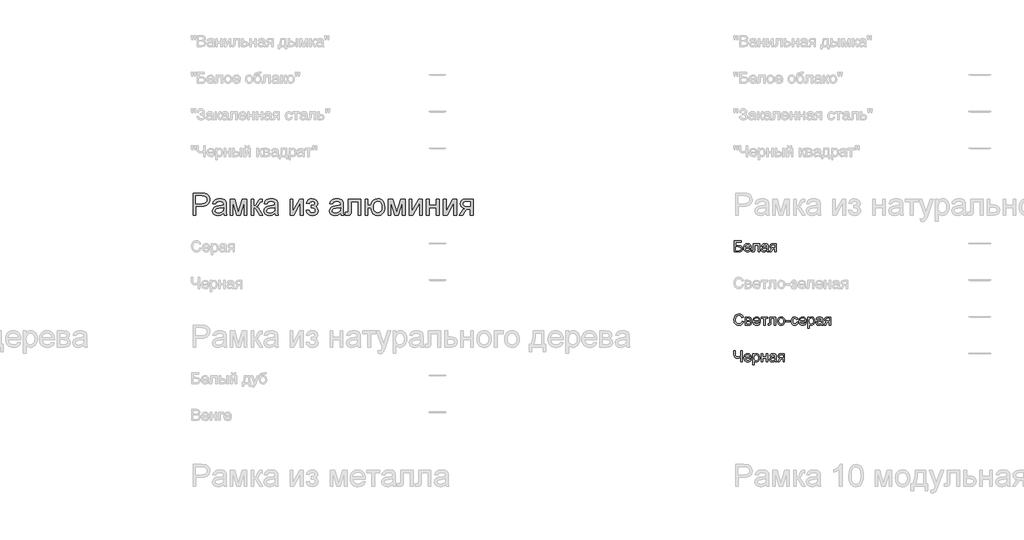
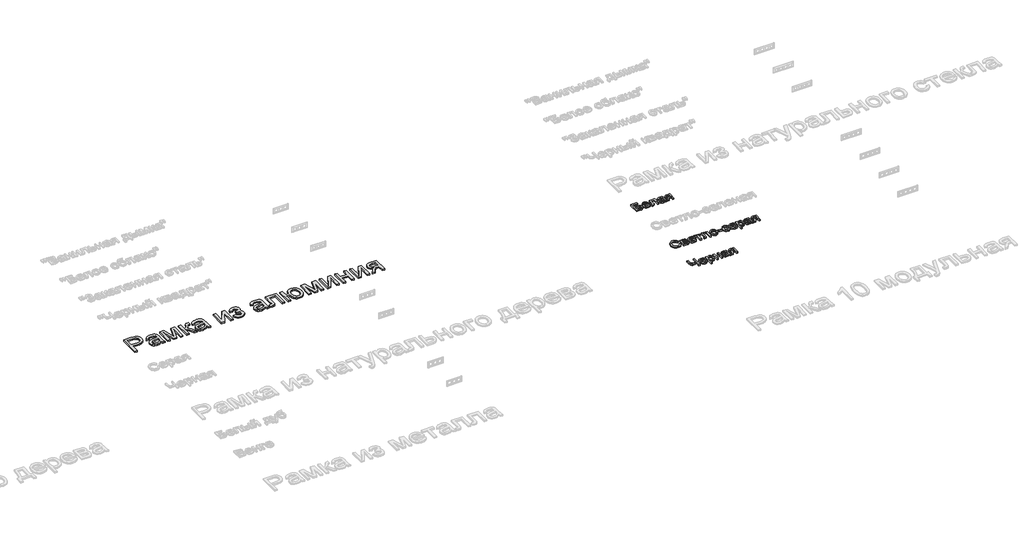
# One storey, part 124 of 168: 4 proxies.
"""IFC4 building model written with IfcOpenShell, lengths in millimetres."""

from ifc_helpers import new_model, si_unit, origin, origin_with_axes, place, context, project, spatial, polyline, outline, extrude, element, save

model = new_model("IFC4")

# Units and contexts
model_context = context("Model", 3, world=origin())
ifc_project = project(units=[si_unit("LENGTHUNIT", "METRE", prefix="MILLI")], contexts=[model_context])

# Site, building, storey
site = spatial("IfcSite", under=ifc_project)
building = spatial("IfcBuilding", under=site)
storey = spatial("IfcBuildingStorey", under=building, Name="Этаж 01", Elevation=0.0)

# Proxies
placement = place(None, origin())
element("IfcBuildingElementProxy", 1, Name="300 мм Arial 2", ObjectType="300 мм Arial 2", at=placement, inside=storey, context=model_context, shape_type="SweptSolid", body=[
    extrude(outline(polyline([(47699.0945017, -8848.4056816), (47699.0945017, -8547.0367511), (47810.7834754, -8547.0367511), (47855.8122316, -8549.9062307), (47875.8893915, -8555.2681108), (47892.4164901, -8563.9961111), (47905.7246213, -8576.4857048), (47916.1448788, -8593.1323651), (47922.8771193, -8612.7680666), (47925.1211995, -8634.224784), (47923.6059855, -8652.7246498), (47919.0603436, -8669.7437906), (47911.4842738, -8685.2822064), (47900.877776, -8699.3398971), (47886.3165468, -8710.9925593), (47866.8762826, -8719.3158895), (47842.5569835, -8724.3098875), (47813.3586494, -8725.9745536), (47736.765618, -8725.9745536), (47736.765618, -8848.4056816), (47699.0945017, -8848.4056816)]), holes=[polyline([(47736.765618, -8688.3034373), (47815.5659413, -8688.3034373), (47848.9696265, -8684.8453465), (47871.0425462, -8674.4710742), (47883.3481989, -8657.824414), (47887.4500832, -8635.5491592), (47885.0312591, -8618.6265874), (47877.7747867, -8604.352766), (47866.581977, -8593.6106117), (47852.3541408, -8587.2830414), (47814.6830245, -8584.7078674), (47736.765618, -8584.7078674), (47736.765618, -8688.3034373)])]), origin_with_axes(), (0.0, 0.0, 1.0), 20.0),
    extrude(outline(polyline([(48113.476781, -8820.1523443), (48095.4781544, -8835.584994), (48076.9460989, -8845.6833548), (48057.4575502, -8851.256767), (48036.589444, -8853.1145711), (48005.1079423, -8848.6448049), (47981.8853914, -8835.2355061), (47967.5655847, -8814.8732377), (47962.7923158, -8789.5445623), (47964.5949376, -8773.9279716), (47970.0028029, -8759.7461207), (47978.3445271, -8747.6060149), (47988.9487257, -8738.1146594), (48015.3258647, -8725.7538244), (48047.9202095, -8720.0884417), (48086.4374544, -8714.1287533), (48113.2560518, -8707.1389954), (48113.476781, -8698.7512859), (48110.883213, -8681.9390788), (48103.1025088, -8670.9394071), (48085.7016904, -8662.7724268), (48061.4582669, -8660.0501), (48039.0174652, -8661.8619189), (48023.3456922, -8667.2973753), (48012.6587202, -8677.3497509), (48005.1723216, -8693.0123268), (47967.5012053, -8688.3034373), (47974.0403078, -8667.7020455), (47983.7983777, -8651.5152378), (47997.685923, -8639.1360086), (48016.6134517, -8629.9573528), (48039.7624262, -8624.273576), (48066.3143092, -8622.3789837), (48091.7809404, -8624.0528468), (48111.9684648, -8629.074436), (48127.1895824, -8636.625214), (48137.7569927, -8645.8866432), (48144.7651447, -8657.3369703), (48149.3084874, -8671.4544419), (48151.1478973, -8704.4166687), (48151.1478973, -8751.2848348), (48153.0608837, -8816.7310418), (48160.5656764, -8848.4056816), (48122.8945601, -8848.4056816), (48113.476781, -8820.1523443)]), holes=[polyline([(48113.476781, -8744.8101117), (48052.7026754, -8756.3616064), (48020.2922716, -8762.4684475), (48005.61378, -8772.4012614), (48000.4634321, -8786.895812), (48003.2685323, -8798.0978187), (48011.683833, -8807.2764745), (48025.525393, -8813.4017097), (48044.6092715, -8815.4434548), (48064.8427813, -8813.1901776), (48082.7218462, -8806.4303459), (48097.2163968, -8796.4699409), (48107.2963635, -8784.6149436), (48111.7661297, -8772.4012614), (48113.2560518, -8755.4786896), (48113.476781, -8744.8101117)])]), origin_with_axes(), (0.0, 0.0, 1.0), 20.0),
    extrude(outline(polyline([(48202.9456823, -8627.0878733), (48267.7664898, -8627.0878733), (48317.7248647, -8804.2598421), (48371.5827888, -8627.0878733), (48433.6812696, -8627.0878733), (48433.6812696, -8848.4056816), (48396.0101533, -8848.4056816), (48396.0101533, -8670.2036431), (48341.8579236, -8848.4056816), (48292.4145835, -8848.4056816), (48240.6167986, -8661.6687808), (48240.6167986, -8848.4056816), (48202.9456823, -8848.4056816), (48202.9456823, -8627.0878733)])), origin_with_axes(), (0.0, 0.0, 1.0), 20.0),
    extrude(outline(polyline([(48490.1879441, -8627.0878733), (48527.8590604, -8627.0878733), (48527.8590604, -8721.265664), (48543.1813455, -8719.5734069), (48553.0957653, -8714.4966353), (48561.8697508, -8701.2528835), (48573.7707334, -8675.0596854), (48590.9508226, -8641.0306009), (48606.1075608, -8629.9573528), (48633.6619222, -8627.0878733), (48640.8724093, -8627.0878733), (48640.8724093, -8664.9797188), (48630.7188662, -8664.7589896), (48612.3247665, -8668.7321151), (48599.3753203, -8693.5273616), (48584.1817939, -8720.345959), (48562.8814263, -8733.4793463), (48574.8191971, -8738.7814455), (48586.6466032, -8748.1394438), (48609.9703217, -8779.0231373), (48650.2901884, -8848.4056816), (48607.4687241, -8848.4056816), (48567.9581979, -8780.4946653), (48548.0925701, -8751.7630814), (48538.8035497, -8746.5483542), (48527.8590604, -8744.8101117), (48527.8590604, -8848.4056816), (48490.1879441, -8848.4056816), (48490.1879441, -8627.0878733)])), origin_with_axes(), (0.0, 0.0, 1.0), 20.0),
    extrude(outline(polyline([(48815.1013222, -8820.1523443), (48797.1026956, -8835.584994), (48778.5706401, -8845.6833548), (48759.0820914, -8851.256767), (48738.2139852, -8853.1145711), (48706.7324835, -8848.6448049), (48683.5099326, -8835.2355061), (48669.1901259, -8814.8732377), (48664.416857, -8789.5445623), (48666.2194788, -8773.9279716), (48671.6273441, -8759.7461207), (48679.9690683, -8747.6060149), (48690.5732669, -8738.1146594), (48716.9504059, -8725.7538244), (48749.5447507, -8720.0884417), (48788.0619956, -8714.1287533), (48814.880593, -8707.1389954), (48815.1013222, -8698.7512859), (48812.5077542, -8681.9390788), (48804.72705, -8670.9394071), (48787.3262316, -8662.7724268), (48763.0828081, -8660.0501), (48740.6420064, -8661.8619189), (48724.9702334, -8667.2973753), (48714.2832614, -8677.3497509), (48706.7968628, -8693.0123268), (48669.1257465, -8688.3034373), (48675.664849, -8667.7020455), (48685.4229189, -8651.5152378), (48699.3104642, -8639.1360086), (48718.2379929, -8629.9573528), (48741.3869674, -8624.273576), (48767.9388504, -8622.3789837), (48793.4054816, -8624.0528468), (48813.593006, -8629.074436), (48828.8141236, -8636.625214), (48839.3815339, -8645.8866432), (48846.3896859, -8657.3369703), (48850.9330286, -8671.4544419), (48852.7724385, -8704.4166687), (48852.7724385, -8751.2848348), (48854.6854249, -8816.7310418), (48862.1902176, -8848.4056816), (48824.5191013, -8848.4056816), (48815.1013222, -8820.1523443)]), holes=[polyline([(48815.1013222, -8744.8101117), (48754.3272166, -8756.3616064), (48721.9168128, -8762.4684475), (48707.2383212, -8772.4012614), (48702.0879733, -8786.895812), (48704.8930735, -8798.0978187), (48713.3083742, -8807.2764745), (48727.1499342, -8813.4017097), (48746.2338127, -8815.4434548), (48766.4673225, -8813.1901776), (48784.3463874, -8806.4303459), (48798.840938, -8796.4699409), (48808.9209047, -8784.6149436), (48813.3906709, -8772.4012614), (48814.880593, -8755.4786896), (48815.1013222, -8744.8101117)])]), origin_with_axes(), (0.0, 0.0, 1.0), 20.0),
    extrude(outline(polyline([(49022.2924619, -8627.0878733), (49059.9635782, -8627.0878733), (49059.9635782, -8795.8721327), (49152.5226882, -8627.0878733), (49201.2302644, -8627.0878733), (49201.2302644, -8848.4056816), (49163.5591481, -8848.4056816), (49163.5591481, -8680.6514918), (49071.5886493, -8848.4056816), (49022.2924619, -8848.4056816), (49022.2924619, -8627.0878733)])), origin_with_axes(), (0.0, 0.0, 1.0), 20.0),
    extrude(outline(polyline([(49309.5347237, -8749.5190013), (49309.5347237, -8711.847885), (49339.259589, -8710.376357), (49354.2691744, -8702.5404705), (49359.5666751, -8695.1920276), (49361.3325087, -8686.1697217), (49358.9688668, -8675.4551586), (49351.8779414, -8667.1502225), (49341.0530137, -8661.8251307), (49327.4873651, -8660.0501), (49313.7745637, -8661.8159336), (49302.2874484, -8667.1134343), (49293.0260192, -8675.9426022), (49285.9902761, -8688.3034373), (49243.6102702, -8683.5945477), (49254.8490652, -8656.8127385), (49271.9371838, -8637.6828747), (49294.8746262, -8626.2049565), (49323.6613924, -8622.3789837), (49355.1520911, -8627.041888), (49378.9908444, -8641.0306009), (49394.0004298, -8661.4940369), (49399.003625, -8685.5811105), (49397.2239958, -8697.9419455), (49391.8851084, -8708.9784054), (49382.9869626, -8718.6904901), (49370.5295585, -8727.0781996), (49385.0700944, -8737.5444423), (49395.4351696, -8750.5490709), (49401.6431783, -8766.1288733), (49403.7125145, -8784.320638), (49398.460999, -8812.0497434), (49382.7064526, -8834.0214956), (49357.515733, -8848.3413022), (49323.955698, -8853.1145711), (49291.1314269, -8848.6999872), (49266.0142837, -8835.4562353), (49248.6042683, -8813.3833156), (49238.9013807, -8782.481228), (49281.2813865, -8777.7723385), (49287.6273509, -8793.7016289), (49298.2775347, -8805.5842173), (49311.9995331, -8812.9786454), (49327.5609415, -8815.4434548), (49342.7176797, -8813.079813), (49355.0785147, -8805.9888875), (49363.3006773, -8795.2191421), (49366.0413982, -8781.8190404), (49364.339944, -8771.2056449), (49359.2355813, -8762.0269891), (49344.7410307, -8751.4319876), (49316.8923636, -8749.2982721), (49309.5347237, -8749.5190013)])), origin_with_axes(), (0.0, 0.0, 1.0), 20.0),
    extrude(outline(polyline([(49709.7903345, -8820.1523443), (49691.7917079, -8835.584994), (49673.2596524, -8845.6833548), (49653.7711037, -8851.256767), (49632.9029975, -8853.1145711), (49601.4214958, -8848.6448049), (49578.1989448, -8835.2355061), (49563.8791382, -8814.8732377), (49559.1058693, -8789.5445623), (49560.908491, -8773.9279716), (49566.3163564, -8759.7461207), (49574.6580806, -8747.6060149), (49585.2622791, -8738.1146594), (49611.6394182, -8725.7538244), (49644.233763, -8720.0884417), (49682.7510079, -8714.1287533), (49709.5696053, -8707.1389954), (49709.7903345, -8698.7512859), (49707.1967664, -8681.9390788), (49699.4160622, -8670.9394071), (49682.0152439, -8662.7724268), (49657.7718204, -8660.0501), (49635.3310187, -8661.8619189), (49619.6592457, -8667.2973753), (49608.9722737, -8677.3497509), (49601.4858751, -8693.0123268), (49563.8147588, -8688.3034373), (49570.3538613, -8667.7020455), (49580.1119312, -8651.5152378), (49593.9994765, -8639.1360086), (49612.9270052, -8629.9573528), (49636.0759797, -8624.273576), (49662.6278627, -8622.3789837), (49688.0944938, -8624.0528468), (49708.2820183, -8629.074436), (49723.5031359, -8636.625214), (49734.0705462, -8645.8866432), (49741.0786982, -8657.3369703), (49745.6220408, -8671.4544419), (49747.4614508, -8704.4166687), (49747.4614508, -8751.2848348), (49749.3744372, -8816.7310418), (49756.8792299, -8848.4056816), (49719.2081136, -8848.4056816), (49709.7903345, -8820.1523443)]), holes=[polyline([(49709.7903345, -8744.8101117), (49649.0162289, -8756.3616064), (49616.6058251, -8762.4684475), (49601.9273335, -8772.4012614), (49596.7769856, -8786.895812), (49599.5820858, -8798.0978187), (49607.9973864, -8807.2764745), (49621.8389465, -8813.4017097), (49640.922825, -8815.4434548), (49661.1563347, -8813.1901776), (49679.0353997, -8806.4303459), (49693.5299503, -8796.4699409), (49703.609917, -8784.6149436), (49708.0796832, -8772.4012614), (49709.5696053, -8755.4786896), (49709.7903345, -8744.8101117)])]), origin_with_axes(), (0.0, 0.0, 1.0), 20.0),
    extrude(outline(polyline([(49818.0947939, -8627.0878733), (49987.6148173, -8627.0878733), (49987.6148173, -8848.1849524), (49949.9437009, -8848.1849524), (49949.9437009, -8664.7589896), (49855.7659102, -8664.7589896), (49855.7659102, -8770.3411222), (49853.2275244, -8819.0486984), (49848.4726496, -8830.0759612), (49839.2847968, -8839.6133019), (49825.3420692, -8846.2075866), (49806.32257, -8848.4056816), (49775.714788, -8846.4926952), (49775.714788, -8810.7345653), (49792.5637834, -8810.7345653), (49809.5967198, -8808.4169087), (49816.4025367, -8801.0592688), (49818.0947939, -8768.2074066), (49818.0947939, -8627.0878733)])), origin_with_axes(), (0.0, 0.0, 1.0), 20.0),
    extrude(outline(polyline([(50044.1214917, -8627.0878733), (50081.792608, -8627.0878733), (50081.792608, -8711.847885), (50124.1726139, -8711.847885), (50133.9490779, -8673.4410047), (50142.4724439, -8658.1003255), (50153.4192325, -8645.3348202), (50166.4813426, -8635.2916418), (50181.350673, -8628.1179429), (50216.5109947, -8622.3789837), (50246.0611159, -8625.754301), (50268.6398734, -8635.880253), (50286.0590858, -8651.929105), (50300.1305722, -8673.0731227), (50309.4287896, -8700.8850015), (50312.5281954, -8736.937437), (50310.9256095, -8763.7928227), (50306.1178516, -8787.1901176), (50298.1049219, -8807.1293217), (50286.8868203, -8823.6104351), (50272.9233994, -8836.5184946), (50256.6745115, -8845.7385371), (50238.1401567, -8851.2705626), (50217.320335, -8853.1145711), (50197.9168591, -8851.3855257), (50180.5413326, -8846.1983896), (50165.1937556, -8837.5531627), (50151.8741281, -8825.4498451), (50140.9135439, -8810.3298951), (50132.6430968, -8792.6347711), (50124.1726139, -8749.5190013), (50081.792608, -8749.5190013), (50081.792608, -8848.4056816), (50044.1214917, -8848.4056816), (50044.1214917, -8627.0878733)]), holes=[polyline([(50218.9390158, -8660.0501), (50194.9255186, -8664.9245365), (50176.8901038, -8679.5478458), (50165.6053236, -8702.9635348), (50161.8437302, -8734.2151103), (50165.6329147, -8770.6262307), (50177.0004684, -8795.8353445), (50194.7139864, -8810.5414272), (50217.5410642, -8815.4434548), (50240.4325214, -8810.9093092), (50258.7806359, -8797.3068724), (50270.8379683, -8773.6060749), (50274.8570791, -8738.776847), (50271.3805942, -8704.3338952), (50260.9511397, -8679.7317868), (50243.495139, -8664.9705217), (50218.9390158, -8660.0501)])]), origin_with_axes(), (0.0, 0.0, 1.0), 20.0),
    extrude(outline(polyline([(50359.6170908, -8627.0878733), (50424.4378983, -8627.0878733), (50474.3962733, -8804.2598421), (50528.2541974, -8627.0878733), (50590.3526782, -8627.0878733), (50590.3526782, -8848.4056816), (50552.6815618, -8848.4056816), (50552.6815618, -8670.2036431), (50498.5293322, -8848.4056816), (50449.085992, -8848.4056816), (50397.2882071, -8661.6687808), (50397.2882071, -8848.4056816), (50359.6170908, -8848.4056816), (50359.6170908, -8627.0878733)])), origin_with_axes(), (0.0, 0.0, 1.0), 20.0),
    extrude(outline(polyline([(50646.8593526, -8627.0878733), (50684.5304689, -8627.0878733), (50684.5304689, -8795.8721327), (50777.0895789, -8627.0878733), (50825.7971551, -8627.0878733), (50825.7971551, -8848.4056816), (50788.1260388, -8848.4056816), (50788.1260388, -8680.6514918), (50696.15554, -8848.4056816), (50646.8593526, -8848.4056816), (50646.8593526, -8627.0878733)])), origin_with_axes(), (0.0, 0.0, 1.0), 20.0),
    extrude(outline(polyline([(50882.3038295, -8627.0878733), (50919.9749458, -8627.0878733), (50919.9749458, -8711.847885), (51018.8616261, -8711.847885), (51018.8616261, -8627.0878733), (51056.5327424, -8627.0878733), (51056.5327424, -8848.4056816), (51018.8616261, -8848.4056816), (51018.8616261, -8749.5190013), (50919.9749458, -8749.5190013), (50919.9749458, -8848.4056816), (50882.3038295, -8848.4056816), (50882.3038295, -8627.0878733)])), origin_with_axes(), (0.0, 0.0, 1.0), 20.0),
    extrude(outline(polyline([(51113.0394169, -8627.0878733), (51150.7105332, -8627.0878733), (51150.7105332, -8795.8721327), (51243.2696432, -8627.0878733), (51291.9772194, -8627.0878733), (51291.9772194, -8848.4056816), (51254.306103, -8848.4056816), (51254.306103, -8680.6514918), (51162.3356043, -8848.4056816), (51113.0394169, -8848.4056816), (51113.0394169, -8627.0878733)])), origin_with_axes(), (0.0, 0.0, 1.0), 20.0),
    extrude(outline(polyline([(51518.0039172, -8627.0878733), (51518.0039172, -8848.4056816), (51480.3328009, -8848.4056816), (51480.3328009, -8763.6456699), (51459.8049856, -8763.6456699), (51431.8459539, -8768.4281358), (51420.6807354, -8778.8575904), (51405.5791795, -8800.5810222), (51375.5600087, -8848.4056816), (51332.0027804, -8848.4056816), (51369.8210495, -8787.9258816), (51386.5228921, -8766.2208438), (51401.9003595, -8756.5823356), (51376.1486198, -8748.6912668), (51358.0488257, -8733.7000755), (51347.3434596, -8713.7608713), (51343.7750043, -8691.025764), (51348.6494407, -8665.2372362), (51363.27275, -8644.8197854), (51387.1298974, -8631.5208513), (51419.7058481, -8627.0878733), (51518.0039172, -8627.0878733)]), holes=[polyline([(51480.3328009, -8664.7589896), (51430.6687315, -8664.7589896), (51405.0181594, -8666.9386904), (51390.4592295, -8673.4777929), (51383.6993978, -8682.9415572), (51381.4461206, -8693.8952436), (51384.7662556, -8708.2518385), (51394.7266606, -8718.2122435), (51413.1299574, -8724.033976), (51441.7787678, -8725.9745536), (51480.3328009, -8725.9745536), (51480.3328009, -8664.7589896)])]), origin_with_axes(), (0.0, 0.0, 1.0), 20.0),
])
element("IfcBuildingElementProxy", 2, Name="150", ObjectType="150", at=placement, inside=storey, context=model_context, shape_type="SweptSolid", body=[
    extrude(outline(polyline([(55082.6133883, -9197.7212163), (55176.791179, -9197.7212163), (55176.791179, -9216.5567745), (55101.4489464, -9216.5567745), (55101.4489464, -9261.2912251), (55136.7288298, -9261.2912251), (55167.8148584, -9265.1171979), (55178.2167218, -9270.6446248), (55186.3193227, -9279.5749603), (55191.53405, -9291.0712726), (55193.2722924, -9304.2966303), (55188.3242796, -9325.7625448), (55173.5538175, -9342.0781113), (55160.2824745, -9346.823789), (55140.1133441, -9348.4056816), (55082.6133883, -9348.4056816), (55082.6133883, -9197.7212163)]), holes=[polyline([(55101.4489464, -9329.5701234), (55141.8056013, -9329.5701234), (55156.0702257, -9328.015822), (55166.269754, -9323.3529177), (55172.3949892, -9315.5814105), (55174.4367343, -9304.7013005), (55169.7646329, -9289.9492325), (55156.7600044, -9282.0765578), (55128.3779085, -9280.1267833), (55101.4489464, -9280.1267833), (55101.4489464, -9329.5701234)])]), origin_with_axes(), (0.0, 0.0, 1.0), 20.0),
    extrude(outline(polyline([(55294.2926883, -9315.4434548), (55312.7603645, -9317.7978996), (55306.1062989, -9331.713036), (55295.4883048, -9342.1148995), (55281.1455055, -9348.5988196), (55263.3170243, -9350.7601263), (55241.2165134, -9347.0307226), (55224.2111682, -9335.8425114), (55213.3678464, -9317.9220597), (55209.7534058, -9293.9959345), (55213.4046346, -9269.2650674), (55224.358321, -9250.7698), (55241.13374, -9239.2366995), (55262.2501665, -9235.3923327), (55282.709004, -9239.2275025), (55299.0567601, -9250.7330118), (55309.7759218, -9269.191491), (55313.3489756, -9293.8855699), (55313.2386111, -9298.9623414), (55228.588964, -9298.9623414), (55231.8493181, -9313.0614189), (55239.4230887, -9323.4264941), (55250.3537825, -9329.8000497), (55263.6849063, -9331.9245682), (55282.1525825, -9327.9882308), (55294.2926883, -9315.4434548)]), holes=[polyline([(55228.588964, -9280.1267833), (55294.5134175, -9280.1267833), (55291.9658347, -9270.1755753), (55286.9718366, -9263.0570587), (55275.990559, -9256.4351828), (55262.1765901, -9254.2278908), (55249.4800628, -9255.9891259), (55238.9816303, -9261.272831), (55231.6837712, -9269.5087892), (55228.588964, -9280.1267833)])]), origin_with_axes(), (0.0, 0.0, 1.0), 20.0),
    extrude(outline(polyline([(55341.6023129, -9237.7467774), (55426.3623246, -9237.7467774), (55426.3623246, -9348.295317), (55407.5267664, -9348.295317), (55407.5267664, -9256.5823356), (55360.437871, -9256.5823356), (55360.437871, -9309.3734019), (55359.1686781, -9333.72719), (55352.1973143, -9344.0094917), (55335.716201, -9348.4056816), (55320.41231, -9347.4491884), (55320.41231, -9329.5701234), (55328.8368076, -9329.5701234), (55337.3532758, -9328.4112951), (55340.7561843, -9324.7324752), (55341.6023129, -9308.3065441), (55341.6023129, -9237.7467774)])), origin_with_axes(), (0.0, 0.0, 1.0), 20.0),
    extrude(outline(polyline([(55525.2490049, -9334.279013), (55506.9836638, -9347.0445182), (55486.8053364, -9350.7601263), (55471.0645855, -9348.5252432), (55459.45331, -9341.8205939), (55452.2934067, -9331.6394596), (55449.9067723, -9318.975122), (55453.5120158, -9304.0759012), (55462.9849772, -9293.2601705), (55476.1735467, -9287.079753), (55492.4707191, -9284.2470616), (55525.1386403, -9277.7723385), (55525.2490049, -9273.5784838), (55523.9522208, -9265.1723802), (55520.0618687, -9259.6725443), (55511.3614596, -9255.5890542), (55499.2397478, -9254.2278908), (55480.1834605, -9257.8515285), (55471.0967752, -9270.7090042), (55452.261217, -9268.3545594), (55460.4098032, -9249.9604597), (55476.8173402, -9239.1815172), (55501.667769, -9235.3923327), (55524.4948468, -9238.7400588), (55537.3891107, -9247.1461624), (55543.164858, -9259.9300617), (55544.084563, -9276.4111751), (55544.084563, -9299.8452582), (55545.0410562, -9332.5683617), (55548.7934526, -9348.4056816), (55529.9578944, -9348.4056816), (55525.2490049, -9334.279013)]), holes=[polyline([(55525.2490049, -9296.6078966), (55494.8619521, -9302.383644), (55478.6567502, -9305.4370645), (55471.3175044, -9310.4034715), (55468.7423304, -9317.6507468), (55474.3525308, -9327.841078), (55490.8152501, -9331.9245682), (55509.8715375, -9327.4180137), (55522.1587961, -9316.5103126), (55525.1386403, -9301.9421856), (55525.2490049, -9296.6078966)])]), origin_with_axes(), (0.0, 0.0, 1.0), 20.0),
    extrude(outline(polyline([(55654.7434672, -9237.7467774), (55654.7434672, -9348.4056816), (55635.907909, -9348.4056816), (55635.907909, -9306.0256757), (55625.6440014, -9306.0256757), (55611.6644855, -9308.4169087), (55598.5310983, -9324.4933519), (55583.5215129, -9348.4056816), (55561.7428988, -9348.4056816), (55580.6520333, -9318.1657816), (55589.0029546, -9307.3132627), (55596.6916883, -9302.4940086), (55583.8158185, -9298.5484742), (55574.7659214, -9291.0528785), (55569.4132384, -9281.0832765), (55567.6290107, -9269.7157228), (55570.0662289, -9256.8214589), (55577.3778836, -9246.6127335), (55589.3064573, -9239.9632664), (55605.5944326, -9237.7467774), (55654.7434672, -9237.7467774)]), holes=[polyline([(55635.907909, -9256.5823356), (55611.0758743, -9256.5823356), (55598.2505883, -9257.672186), (55590.9711233, -9260.9417372), (55586.4645689, -9271.1504626), (55588.1246364, -9278.32876), (55593.1048389, -9283.3089625), (55616.6308925, -9287.1901176), (55635.907909, -9287.1901176), (55635.907909, -9256.5823356)])]), origin_with_axes(), (0.0, 0.0, 1.0), 20.0),
])
element("IfcBuildingElementProxy", 3, Name="150", ObjectType="150", at=placement, inside=storey, context=model_context, shape_type="SweptSolid", body=[
    extrude(outline(polyline([(55188.5634029, -10294.8420631), (55207.398961, -10299.6981054), (55198.7077489, -10321.6468649), (55185.0685239, -10337.6819214), (55167.1526708, -10347.4905751), (55145.631574, -10350.7601263), (55123.7839821, -10348.2861199), (55106.4337475, -10340.8641007), (55093.1348133, -10328.751586), (55083.4411228, -10312.2060932), (55077.5228212, -10292.7543327), (55075.550054, -10271.9230148), (55077.7803386, -10249.9512626), (55084.4711923, -10230.9777487), (55095.2731274, -10215.6048798), (55109.8366559, -10204.4350628), (55127.1087156, -10197.6338444), (55146.0362442, -10195.3667716), (55166.6882197, -10198.3006305), (55183.7625428, -10207.1022072), (55196.7257847, -10221.2288758), (55205.0445163, -10240.1380104), (55186.2089581, -10244.6261707), (55179.6790527, -10230.8903767), (55170.7579143, -10221.4679991), (55159.3351784, -10216.0187471), (55145.3004803, -10214.2023297), (55129.1228695, -10216.2164837), (55115.8331324, -10222.2589454), (55105.7485672, -10231.6951186), (55099.1864722, -10243.8904067), (55094.3856121, -10271.8862266), (55095.8065563, -10289.2870449), (55100.0693889, -10304.3334185), (55107.3350583, -10316.4505318), (55117.7645129, -10325.063569), (55130.2679022, -10330.2093184), (55143.7553759, -10331.9245682), (55159.4777326, -10329.5885175), (55172.5789302, -10322.5803655), (55182.4703573, -10310.9736886), (55188.5634029, -10294.8420631)])), origin_with_axes(), (0.0, 0.0, 1.0), 20.0),
    extrude(outline(polyline([(55230.9434087, -10237.7467774), (55272.4404978, -10237.7467774), (55295.1939992, -10240.2667691), (55307.9962926, -10249.5006072), (55313.3489756, -10265.5954445), (55310.1116141, -10278.6736494), (55300.3627412, -10287.999458), (55313.0178819, -10298.2081833), (55318.0578652, -10315.9584896), (55314.8664889, -10330.3150845), (55307.2789227, -10340.4226423), (55295.2675756, -10346.4099217), (55278.8048563, -10348.4056816), (55230.9434087, -10348.4056816), (55230.9434087, -10237.7467774)]), holes=[polyline([(55249.7789669, -10280.1267833), (55268.3937958, -10280.1267833), (55283.7528691, -10279.1702901), (55291.2208736, -10275.3443173), (55294.5134175, -10268.4281358), (55293.0694807, -10262.8087383), (55288.7376702, -10259.1942977), (55268.982407, -10256.5823356), (55249.7789669, -10256.5823356), (55249.7789669, -10280.1267833)]), polyline([(55249.7789669, -10329.5701234), (55272.8819562, -10329.5701234), (55293.3729833, -10326.167215), (55297.6128233, -10321.5273033), (55299.222307, -10314.4133852), (55296.0033396, -10305.345094), (55287.6156301, -10300.0659874), (55271.0425462, -10298.9623414), (55249.7789669, -10298.9623414), (55249.7789669, -10329.5701234)])]), origin_with_axes(), (0.0, 0.0, 1.0), 20.0),
    extrude(outline(polyline([(55419.0782611, -10315.4434548), (55437.5459372, -10317.7978996), (55430.8918716, -10331.713036), (55420.2738775, -10342.1148995), (55405.9310783, -10348.5988196), (55388.1025971, -10350.7601263), (55366.0020862, -10347.0307226), (55348.996741, -10335.8425114), (55338.1534192, -10317.9220597), (55334.5389786, -10293.9959345), (55338.1902074, -10269.2650674), (55349.1438938, -10250.7698), (55365.9193128, -10239.2366995), (55387.0357393, -10235.3923327), (55407.4945767, -10239.2275025), (55423.8423329, -10250.7330118), (55434.5614945, -10269.191491), (55438.1345484, -10293.8855699), (55438.0241838, -10298.9623414), (55353.3745367, -10298.9623414), (55356.6348909, -10313.0614189), (55364.2086615, -10323.4264941), (55375.1393553, -10329.8000497), (55388.4704791, -10331.9245682), (55406.9381552, -10327.9882308), (55419.0782611, -10315.4434548)]), holes=[polyline([(55353.3745367, -10280.1267833), (55419.2989903, -10280.1267833), (55416.7514074, -10270.1755753), (55411.7574094, -10263.0570587), (55400.7761318, -10256.4351828), (55386.9621629, -10254.2278908), (55374.2656355, -10255.9891259), (55363.7672031, -10261.272831), (55356.469344, -10269.5087892), (55353.3745367, -10280.1267833)])]), origin_with_axes(), (0.0, 0.0, 1.0), 20.0),
    extrude(outline(polyline([(55447.5523275, -10237.7467774), (55537.0212287, -10237.7467774), (55537.0212287, -10256.5823356), (55501.7045572, -10256.5823356), (55501.7045572, -10348.4056816), (55482.868999, -10348.4056816), (55482.868999, -10256.5823356), (55447.5523275, -10256.5823356), (55447.5523275, -10237.7467774)])), origin_with_axes(), (0.0, 0.0, 1.0), 20.0),
    extrude(outline(polyline([(55562.9201212, -10237.7467774), (55647.6801329, -10237.7467774), (55647.6801329, -10348.295317), (55628.8445747, -10348.295317), (55628.8445747, -10256.5823356), (55581.7556793, -10256.5823356), (55581.7556793, -10309.3734019), (55580.4864864, -10333.72719), (55573.5151226, -10344.0094917), (55557.0340093, -10348.4056816), (55541.7301183, -10347.4491884), (55541.7301183, -10329.5701234), (55550.1546159, -10329.5701234), (55558.6710841, -10328.4112951), (55562.0739926, -10324.7324752), (55562.9201212, -10308.3065441), (55562.9201212, -10237.7467774)])), origin_with_axes(), (0.0, 0.0, 1.0), 20.0),
    extrude(outline(polyline([(55671.2245806, -10293.0762295), (55675.2988737, -10266.3955878), (55687.5217529, -10247.6428031), (55702.6233088, -10238.4549503), (55720.7047089, -10235.3923327), (55740.4921617, -10239.1217364), (55756.2972919, -10250.3099476), (55766.6577686, -10268.0740494), (55770.1112609, -10291.5311251), (55768.5845506, -10310.5598213), (55764.0044197, -10325.0451749), (55756.5042256, -10335.8930952), (55746.2173253, -10344.0094917), (55733.9990445, -10349.0724677), (55720.7047089, -10350.7601263), (55700.6781328, -10347.0445182), (55684.8913967, -10335.8976937), (55674.6412846, -10317.7611114), (55671.2245806, -10293.0762295)]), holes=[polyline([(55690.0601387, -10293.0394413), (55692.2398395, -10310.0861732), (55698.778942, -10322.2308776), (55708.6197854, -10329.5011455), (55720.7047089, -10331.9245682), (55732.7344502, -10329.48735), (55742.5568994, -10322.1756953), (55749.0960019, -10309.8700426), (55751.2757027, -10292.4508301), (55749.0822063, -10275.9007388), (55742.5017171, -10263.9215814), (55732.6654723, -10256.6513134), (55720.7047089, -10254.2278908), (55708.6197854, -10256.6421164), (55698.778942, -10263.8847932), (55692.2398395, -10276.0019064), (55690.0601387, -10293.0394413)])]), origin_with_axes(), (0.0, 0.0, 1.0), 20.0),
    extrude(outline(polyline([(55781.8834847, -10303.671231), (55781.8834847, -10284.8356728), (55840.7446039, -10284.8356728), (55840.7446039, -10303.671231), (55781.8834847, -10303.671231)])), origin_with_axes(), (0.0, 0.0, 1.0), 20.0),
    extrude(outline(polyline([(55932.5679499, -10308.3801205), (55951.4035081, -10310.7345653), (55946.1519926, -10327.4869916), (55936.2835581, -10340.1467308), (55922.7271066, -10348.1067774), (55906.4115401, -10350.7601263), (55886.3757669, -10347.0583138), (55870.7085924, -10335.952876), (55860.5964361, -10317.9312568), (55857.2257173, -10293.4808997), (55858.6650556, -10276.7192763), (55862.9830705, -10262.192536), (55870.2487399, -10250.4616989), (55880.5310417, -10242.087785), (55892.8320959, -10237.0661957), (55906.1540227, -10235.3923327), (55922.0695175, -10237.6915951), (55934.793636, -10244.5893825), (55943.921708, -10255.7178129), (55949.0490633, -10270.7090042), (55930.2135052, -10273.063449), (55921.4763078, -10258.9551744), (55906.3011755, -10254.2278908), (55894.12888, -10256.5547444), (55884.4673791, -10263.5353053), (55878.1628014, -10275.5466524), (55876.0612755, -10292.9658649), (55878.1168161, -10310.6196021), (55884.2834381, -10322.672336), (55893.770195, -10329.6115101), (55905.7861407, -10331.9245682), (55915.5396121, -10330.4806314), (55923.5364469, -10326.1488209), (55929.353581, -10318.8187721), (55932.5679499, -10308.3801205)])), origin_with_axes(), (0.0, 0.0, 1.0), 20.0),
    extrude(outline(polyline([(56045.3605697, -10315.4434548), (56063.8282458, -10317.7978996), (56057.1741802, -10331.713036), (56046.5561861, -10342.1148995), (56032.2133868, -10348.5988196), (56014.3849057, -10350.7601263), (55992.2843948, -10347.0307226), (55975.2790496, -10335.8425114), (55964.4357278, -10317.9220597), (55960.8212872, -10293.9959345), (55964.472516, -10269.2650674), (55975.4262024, -10250.7698), (55992.2016213, -10239.2366995), (56013.3180479, -10235.3923327), (56033.7768853, -10239.2275025), (56050.1246415, -10250.7330118), (56060.8438031, -10269.191491), (56064.416857, -10293.8855699), (56064.3064924, -10298.9623414), (55979.6568453, -10298.9623414), (55982.9171995, -10313.0614189), (55990.4909701, -10323.4264941), (56001.4216639, -10329.8000497), (56014.7527877, -10331.9245682), (56033.2204638, -10327.9882308), (56045.3605697, -10315.4434548)]), holes=[polyline([(55979.6568453, -10280.1267833), (56045.5812988, -10280.1267833), (56043.033716, -10270.1755753), (56038.0397179, -10263.0570587), (56027.0584404, -10256.4351828), (56013.2444715, -10254.2278908), (56000.5479441, -10255.9891259), (55990.0495117, -10261.272831), (55982.7516526, -10269.5087892), (55979.6568453, -10280.1267833)])]), origin_with_axes(), (0.0, 0.0, 1.0), 20.0),
    extrude(outline(polyline([(56083.2524152, -10390.7856874), (56083.2524152, -10237.7467774), (56102.0879733, -10237.7467774), (56102.0879733, -10256.2144536), (56115.1109959, -10240.5978629), (56132.6957553, -10235.3923327), (56145.4336694, -10237.2133485), (56156.5712968, -10242.6763962), (56165.639588, -10251.4503817), (56172.1694934, -10263.2042115), (56177.4302059, -10292.2301009), (56175.9448824, -10308.3387338), (56171.4889117, -10322.7459124), (56164.2048482, -10334.7204713), (56154.2352461, -10343.5312451), (56142.6239707, -10348.952906), (56130.4148869, -10350.7601263), (56114.0257441, -10345.9224781), (56102.0879733, -10333.6904018), (56102.0879733, -10390.7856874), (56083.2524152, -10390.7856874)]), holes=[polyline([(56102.0879733, -10293.9591463), (56104.1251199, -10310.8449299), (56110.2365595, -10322.6539419), (56119.2542669, -10329.6069116), (56130.0102167, -10331.9245682), (56140.9409105, -10329.5241382), (56150.1885442, -10322.3228481), (56156.4931219, -10310.0815747), (56158.5946478, -10292.5611947), (56156.5437056, -10275.7673816), (56150.3908793, -10263.7928227), (56141.3869674, -10256.6191238), (56130.7827689, -10254.2278908), (56120.1371837, -10256.7708751), (56110.7883825, -10264.399828), (56104.2630756, -10276.8756261), (56102.0879733, -10293.9591463)])]), origin_with_axes(), (0.0, 0.0, 1.0), 20.0),
    extrude(outline(polyline([(56269.2535519, -10334.279013), (56250.9882109, -10347.0445182), (56230.8098834, -10350.7601263), (56215.0691326, -10348.5252432), (56203.4578571, -10341.8205939), (56196.2979537, -10331.6394596), (56193.9113193, -10318.975122), (56197.5165629, -10304.0759012), (56206.9895242, -10293.2601705), (56220.1780938, -10287.079753), (56236.4752661, -10284.2470616), (56269.1431873, -10277.7723385), (56269.2535519, -10273.5784838), (56267.9567679, -10265.1723802), (56264.0664158, -10259.6725443), (56255.3660066, -10255.5890542), (56243.2442949, -10254.2278908), (56224.1880075, -10257.8515285), (56215.1013222, -10270.7090042), (56196.2657641, -10268.3545594), (56204.4143503, -10249.9604597), (56220.8218873, -10239.1815172), (56245.672316, -10235.3923327), (56268.4993938, -10238.7400588), (56281.3936578, -10247.1461624), (56287.1694051, -10259.9300617), (56288.0891101, -10276.4111751), (56288.0891101, -10299.8452582), (56289.0456033, -10332.5683617), (56292.7979996, -10348.4056816), (56273.9624415, -10348.4056816), (56269.2535519, -10334.279013)]), holes=[polyline([(56269.2535519, -10296.6078966), (56238.8664991, -10302.383644), (56222.6612972, -10305.4370645), (56215.3220514, -10310.4034715), (56212.7468775, -10317.6507468), (56218.3570779, -10327.841078), (56234.8197972, -10331.9245682), (56253.8760845, -10327.4180137), (56266.1633432, -10316.5103126), (56269.1431873, -10301.9421856), (56269.2535519, -10296.6078966)])]), origin_with_axes(), (0.0, 0.0, 1.0), 20.0),
    extrude(outline(polyline([(56398.7480142, -10237.7467774), (56398.7480142, -10348.4056816), (56379.9124561, -10348.4056816), (56379.9124561, -10306.0256757), (56369.6485484, -10306.0256757), (56355.6690326, -10308.4169087), (56342.5356454, -10324.4933519), (56327.52606, -10348.4056816), (56305.7474458, -10348.4056816), (56324.6565804, -10318.1657816), (56333.0075017, -10307.3132627), (56340.6962354, -10302.4940086), (56327.8203655, -10298.5484742), (56318.7704685, -10291.0528785), (56313.4177854, -10281.0832765), (56311.6335578, -10269.7157228), (56314.070776, -10256.8214589), (56321.3824306, -10246.6127335), (56333.3110043, -10239.9632664), (56349.5989797, -10237.7467774), (56398.7480142, -10237.7467774)]), holes=[polyline([(56379.9124561, -10256.5823356), (56355.0804214, -10256.5823356), (56342.2551353, -10257.672186), (56334.9756704, -10260.9417372), (56330.4691159, -10271.1504626), (56332.1291834, -10278.32876), (56337.1093859, -10283.3089625), (56360.6354395, -10287.1901176), (56379.9124561, -10287.1901176), (56379.9124561, -10256.5823356)])]), origin_with_axes(), (0.0, 0.0, 1.0), 20.0),
])
element("IfcBuildingElementProxy", 4, Name="150", ObjectType="150", at=placement, inside=storey, context=model_context, shape_type="SweptSolid", body=[
    extrude(outline(polyline([(55188.5634029, -10848.4056816), (55169.7278447, -10848.4056816), (55169.7278447, -10788.0730344), (55144.7486573, -10796.2400147), (55123.0804077, -10798.9623414), (55108.3973176, -10797.0999388), (55095.5444404, -10791.512731), (55085.5840354, -10783.0606422), (55079.5783618, -10772.6035965), (55075.550054, -10742.6028198), (55075.550054, -10697.7212163), (55094.3856121, -10697.7212163), (55094.3856121, -10740.064434), (55096.6480864, -10760.4313009), (55103.4355092, -10772.3828673), (55113.3959142, -10778.1908043), (55125.1773351, -10780.1267833), (55146.909964, -10777.7907326), (55169.7278447, -10770.7825806), (55169.7278447, -10697.7212163), (55188.5634029, -10697.7212163), (55188.5634029, -10848.4056816)])), origin_with_axes(), (0.0, 0.0, 1.0), 20.0),
    extrude(outline(polyline([(55296.6471331, -10815.4434548), (55315.1148092, -10817.7978996), (55308.4607436, -10831.713036), (55297.8427496, -10842.1148995), (55283.4999503, -10848.5988196), (55265.6714691, -10850.7601263), (55243.5709582, -10847.0307226), (55226.565613, -10835.8425114), (55215.7222912, -10817.9220597), (55212.1078506, -10793.9959345), (55215.7590794, -10769.2650674), (55226.7127658, -10750.7698), (55243.4881848, -10739.2366995), (55264.6046113, -10735.3923327), (55285.0634487, -10739.2275025), (55301.4112049, -10750.7330118), (55312.1303665, -10769.191491), (55315.7034204, -10793.8855699), (55315.5930558, -10798.9623414), (55230.9434087, -10798.9623414), (55234.2037629, -10813.0614189), (55241.7775335, -10823.4264941), (55252.7082273, -10829.8000497), (55266.0393511, -10831.9245682), (55284.5070272, -10827.9882308), (55296.6471331, -10815.4434548)]), holes=[polyline([(55230.9434087, -10780.1267833), (55296.8678623, -10780.1267833), (55294.3202794, -10770.1755753), (55289.3262814, -10763.0570587), (55278.3450038, -10756.4351828), (55264.5310349, -10754.2278908), (55251.8345075, -10755.9891259), (55241.3360751, -10761.272831), (55234.038216, -10769.5087892), (55230.9434087, -10780.1267833)])]), origin_with_axes(), (0.0, 0.0, 1.0), 20.0),
    extrude(outline(polyline([(55334.5389786, -10890.7856874), (55334.5389786, -10737.7467774), (55353.3745367, -10737.7467774), (55353.3745367, -10756.2144536), (55366.3975594, -10740.5978629), (55383.9823187, -10735.3923327), (55396.7202328, -10737.2133485), (55407.8578602, -10742.6763962), (55416.9261514, -10751.4503817), (55423.4560568, -10763.2042115), (55428.7167693, -10792.2301009), (55427.2314458, -10808.3387338), (55422.7754751, -10822.7459124), (55415.4914116, -10834.7204713), (55405.5218095, -10843.5312451), (55393.9105341, -10848.952906), (55381.7014504, -10850.7601263), (55365.3123075, -10845.9224781), (55353.3745367, -10833.6904018), (55353.3745367, -10890.7856874), (55334.5389786, -10890.7856874)]), holes=[polyline([(55353.3745367, -10793.9591463), (55355.4116833, -10810.8449299), (55361.5231229, -10822.6539419), (55370.5408303, -10829.6069116), (55381.2967802, -10831.9245682), (55392.2274739, -10829.5241382), (55401.4751076, -10822.3228481), (55407.7796853, -10810.0815747), (55409.8812112, -10792.5611947), (55407.8302691, -10775.7673816), (55401.6774427, -10763.7928227), (55392.6735309, -10756.6191238), (55382.0693323, -10754.2278908), (55371.4237471, -10756.7708751), (55362.0749459, -10764.399828), (55355.549639, -10776.8756261), (55353.3745367, -10793.9591463)])]), origin_with_axes(), (0.0, 0.0, 1.0), 20.0),
    extrude(outline(polyline([(55449.9067723, -10737.7467774), (55468.7423304, -10737.7467774), (55468.7423304, -10780.1267833), (55518.1856706, -10780.1267833), (55518.1856706, -10737.7467774), (55537.0212287, -10737.7467774), (55537.0212287, -10848.4056816), (55518.1856706, -10848.4056816), (55518.1856706, -10798.9623414), (55468.7423304, -10798.9623414), (55468.7423304, -10848.4056816), (55449.9067723, -10848.4056816), (55449.9067723, -10737.7467774)])), origin_with_axes(), (0.0, 0.0, 1.0), 20.0),
    extrude(outline(polyline([(55635.907909, -10834.279013), (55617.642568, -10847.0445182), (55597.4642405, -10850.7601263), (55581.7234897, -10848.5252432), (55570.1122142, -10841.8205939), (55562.9523109, -10831.6394596), (55560.5656764, -10818.975122), (55564.17092, -10804.0759012), (55573.6438813, -10793.2601705), (55586.8324509, -10787.079753), (55603.1296232, -10784.2470616), (55635.7975444, -10777.7723385), (55635.907909, -10773.5784838), (55634.611125, -10765.1723802), (55630.7207729, -10759.6725443), (55622.0203637, -10755.5890542), (55609.898652, -10754.2278908), (55590.8423646, -10757.8515285), (55581.7556793, -10770.7090042), (55562.9201212, -10768.3545594), (55571.0687074, -10749.9604597), (55587.4762444, -10739.1815172), (55612.3266731, -10735.3923327), (55635.1537509, -10738.7400588), (55648.0480149, -10747.1461624), (55653.8237622, -10759.9300617), (55654.7434672, -10776.4111751), (55654.7434672, -10799.8452582), (55655.6999604, -10832.5683617), (55659.4523567, -10848.4056816), (55640.6167986, -10848.4056816), (55635.907909, -10834.279013)]), holes=[polyline([(55635.907909, -10796.6078966), (55605.5208562, -10802.383644), (55589.3156543, -10805.4370645), (55581.9764085, -10810.4034715), (55579.4012346, -10817.6507468), (55585.011435, -10827.841078), (55601.4741543, -10831.9245682), (55620.5304416, -10827.4180137), (55632.8177003, -10816.5103126), (55635.7975444, -10801.9421856), (55635.907909, -10796.6078966)])]), origin_with_axes(), (0.0, 0.0, 1.0), 20.0),
    extrude(outline(polyline([(55765.4023713, -10737.7467774), (55765.4023713, -10848.4056816), (55746.5668132, -10848.4056816), (55746.5668132, -10806.0256757), (55736.3029055, -10806.0256757), (55722.3233897, -10808.4169087), (55709.1900025, -10824.4933519), (55694.1804171, -10848.4056816), (55672.4018029, -10848.4056816), (55691.3109375, -10818.1657816), (55699.6618588, -10807.3132627), (55707.3505925, -10802.4940086), (55694.4747227, -10798.5484742), (55685.4248256, -10791.0528785), (55680.0721425, -10781.0832765), (55678.2879149, -10769.7157228), (55680.7251331, -10756.8214589), (55688.0367877, -10746.6127335), (55699.9653614, -10739.9632664), (55716.2533368, -10737.7467774), (55765.4023713, -10737.7467774)]), holes=[polyline([(55746.5668132, -10756.5823356), (55721.7347785, -10756.5823356), (55708.9094924, -10757.672186), (55701.6300275, -10760.9417372), (55697.123473, -10771.1504626), (55698.7835405, -10778.32876), (55703.763743, -10783.3089625), (55727.2897966, -10787.1901176), (55746.5668132, -10787.1901176), (55746.5668132, -10756.5823356)])]), origin_with_axes(), (0.0, 0.0, 1.0), 20.0),
])

save(model, "model.ifc")
